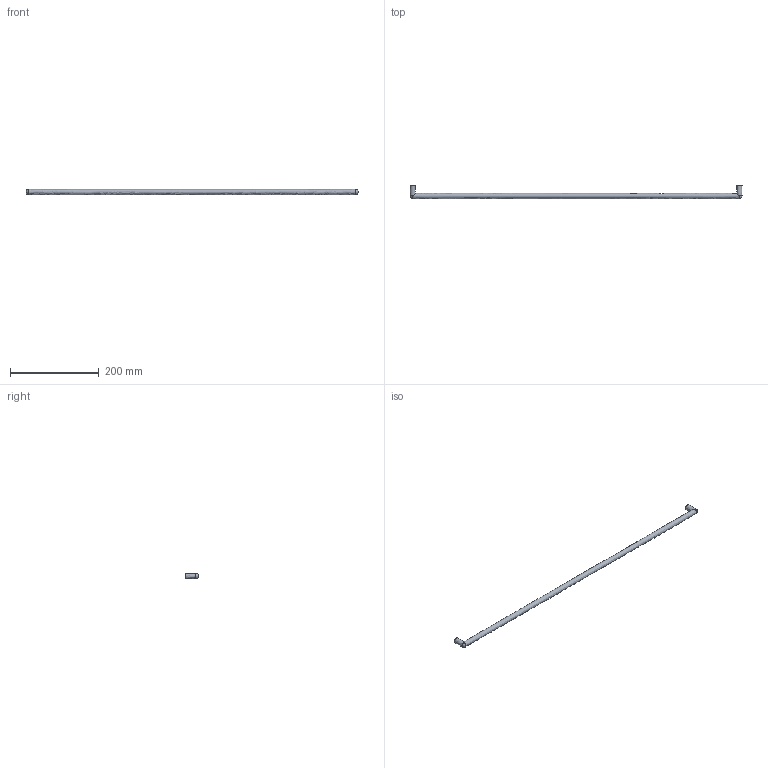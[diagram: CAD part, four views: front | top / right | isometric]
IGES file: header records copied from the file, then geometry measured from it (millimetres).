
Start section: Data from Parasolid IGES Translator 15.0.47, Copyright(c) 2006 Siemens P LM Software. All Rights Reserved.
Global section: file name:  9071013.igs; native system:  By UGS Corp.; preprocessor: XPlus GENERIC/IGES 3.0; author: Noname; organization: Noname; date: 20140122.181556; units: millimetre
Bounding box: 748 x 30 x 12 mm (x, y, z)
Surface area: 30034.7 mm2 (no closed solid volume)
Topology: 0 solids, 0 shells, 11 faces, 38 edges, 30 vertices
Faces by surface type: revolution 7, extrusion 4
